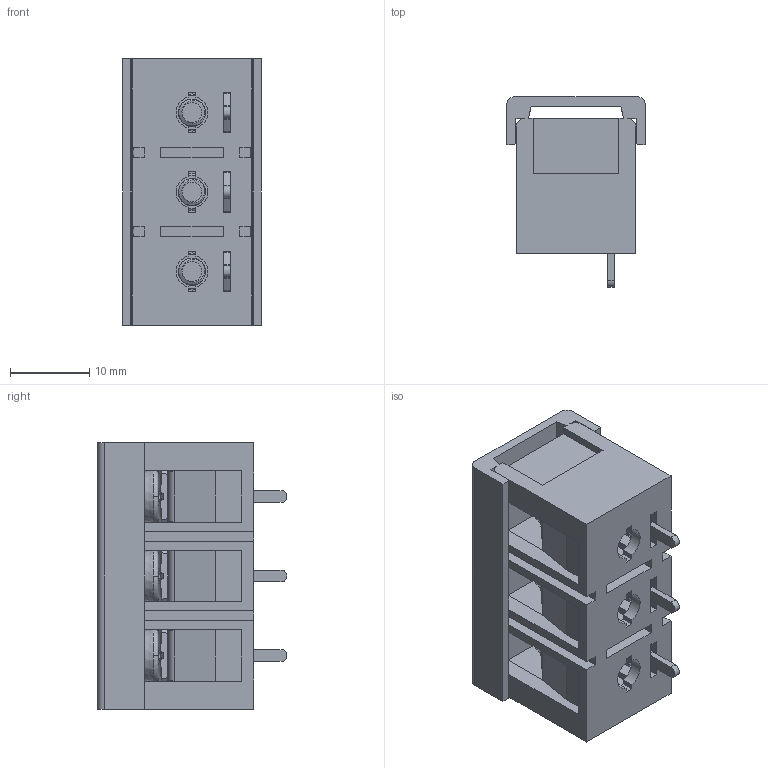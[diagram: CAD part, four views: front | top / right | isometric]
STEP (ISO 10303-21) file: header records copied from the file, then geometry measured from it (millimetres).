
FILE_DESCRIPTION((''),'2;1');
FILE_NAME('3PIN','2021-05-25T',('hanke'),(''),'CREO PARAMETRIC BY PTC INC, 2016260','CREO PARAMETRIC BY PTC INC, 2016260','');
FILE_SCHEMA(('CONFIG_CONTROL_DESIGN'));
Products named in the file (1): 3PIN
Bounding box: 17.4 x 23.9 x 33.5 mm (x, y, z)
Volume: 5768.5 mm3; surface area: 8492.8 mm2
Topology: 1 solids, 13 shells, 1311 faces, 3731 edges, 2419 vertices
Faces by surface type: plane 849, cylinder 225, bspline 195, cone 24, torus 18
Entity records: 63144 total; most frequent: CARTESIAN_POINT 31247, ORIENTED_EDGE 7450, DIRECTION 5438, EDGE_CURVE 3725, VERTEX_POINT 2419, VECTOR 2258, LINE 2258, AXIS2_PLACEMENT_3D 1590
